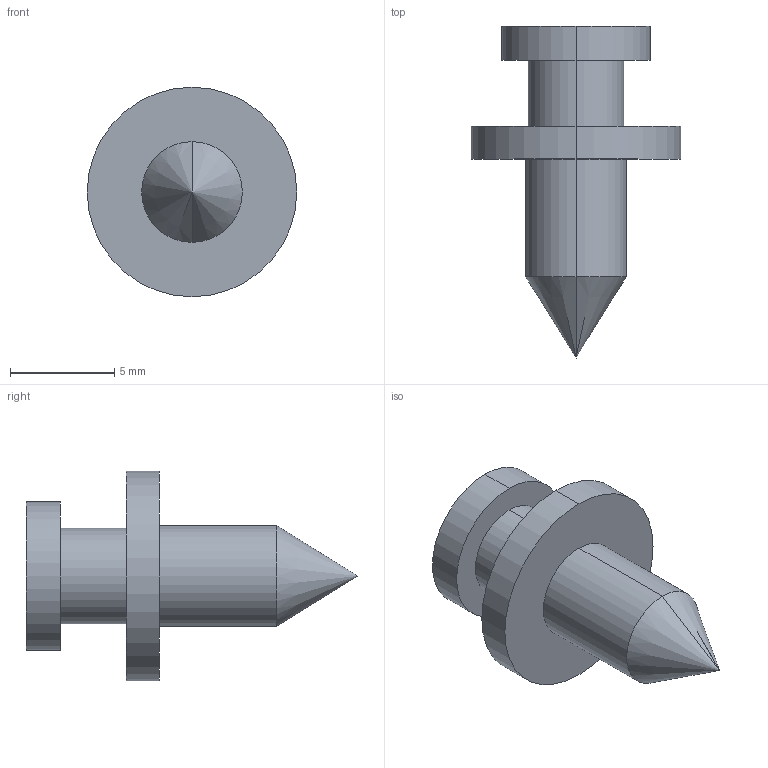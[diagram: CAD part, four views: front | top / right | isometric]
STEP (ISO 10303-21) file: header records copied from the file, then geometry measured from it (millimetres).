
FILE_DESCRIPTION (( 'STEP AP214' ), '1' );
FILE_NAME ('5043_V01_REF_PRT_SH_SCR.STEP', '2026-01-20T15:01:16', ( '' ), ( '' ), 'SwSTEP 2.0', 'SolidWorks 2025', '' );
FILE_SCHEMA (( 'AUTOMOTIVE_DESIGN' ));
Length unit declared in the file: inch
Products named in the file (1): 5043_V01_REF_PRT_SH_SCR
Bounding box: 10.03 x 15.9 x 10.03 mm (x, y, z)
Volume: 367.4 mm3; surface area: 438.1 mm2
Topology: 1 solids, 1 shells, 14 faces, 28 edges, 17 vertices
Faces by surface type: cylinder 8, plane 4, cone 2
Entity records: 385 total; most frequent: DIRECTION 72, CARTESIAN_POINT 58, ORIENTED_EDGE 52, AXIS2_PLACEMENT_3D 31, EDGE_CURVE 26, VERTEX_POINT 17, EDGE_LOOP 17, CIRCLE 16
